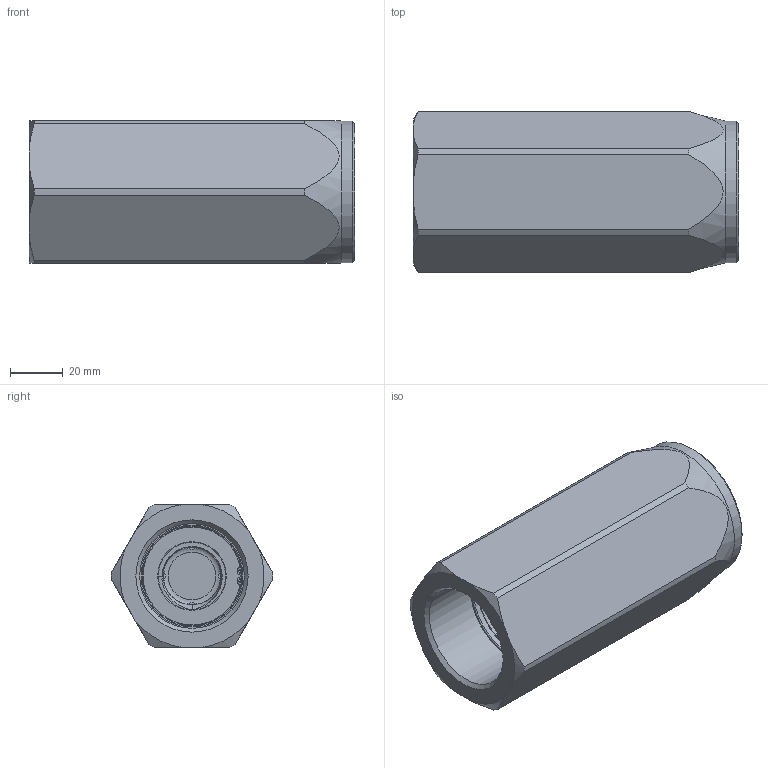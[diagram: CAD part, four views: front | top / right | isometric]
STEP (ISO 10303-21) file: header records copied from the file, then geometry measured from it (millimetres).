
FILE_DESCRIPTION (( 'STEP AP214' ), '1' );
FILE_NAME ('VUR114.STEP', '2020-06-15T07:03:52', ( '' ), ( '' ), 'SwSTEP 2.0', 'SolidWorks 2017', '' );
FILE_SCHEMA (( 'AUTOMOTIVE_DESIGN' ));
Length unit declared in the file: millimetre
Products named in the file (1): VUR114
Bounding box: 123 x 60.99 x 54 mm (x, y, z)
Volume: 199884.4 mm3; surface area: 67655.1 mm2
Topology: 6 solids, 6 shells, 97 faces, 225 edges, 141 vertices
Faces by surface type: cylinder 31, plane 30, cone 23, bspline 8, torus 5
Full cylindrical faces by diameter (mm): 1.667 x2, 13 x4, 24 x1, 25 x1, 25.5 x1, 30.5 x2, 37.5 x3, 37.7 x2, 39.5 x2, 40 x2, 53.5 x1
Entity records: 8019 total; most frequent: CARTESIAN_POINT 4948, DIRECTION 395, ORIENTED_EDGE 330, AXIS2_PLACEMENT_3D 185, EDGE_CURVE 165, EDGE_LOOP 161, VERTEX_POINT 128, FACE_OUTER_BOUND 127
